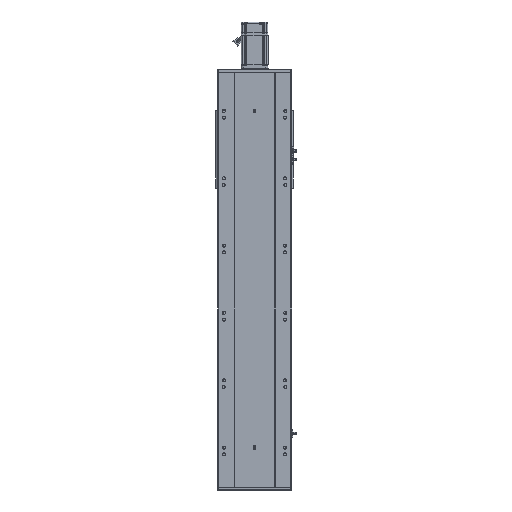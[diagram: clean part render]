
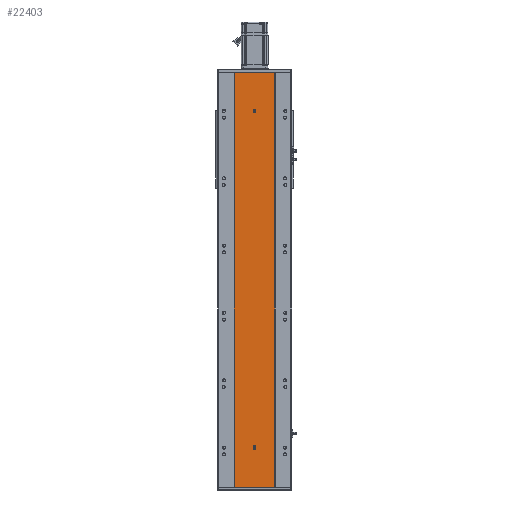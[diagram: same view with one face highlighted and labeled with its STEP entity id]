
A CAD part, front view. The second image highlights one B-rep face of the part: STEP entity #22403.
In plain terms, the highlighted planar face has unit normal (0, -1, 0).
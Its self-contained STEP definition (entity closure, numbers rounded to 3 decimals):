
#857 = CARTESIAN_POINT ( 'NONE',  ( 0., 0., 116.5 ) ) ;
#1400 = VECTOR ( 'NONE', #25266, 1000. ) ;
#2081 = VERTEX_POINT ( 'NONE', #4180 ) ;
#2931 = DIRECTION ( 'NONE',  ( 0., 0., 1. ) ) ;
#3220 = ORIENTED_EDGE ( 'NONE', *, *, #37262, .T. ) ;
#3394 = EDGE_LOOP ( 'NONE', ( #3220, #40377, #12947, #42355 ) ) ;
#3590 = DIRECTION ( 'NONE',  ( 0., 0., -1. ) ) ;
#4180 = CARTESIAN_POINT ( 'NONE',  ( 60., 0., 1232. ) ) ;
#4543 = DIRECTION ( 'NONE',  ( 0., -1., 0. ) ) ;
#5794 = ORIENTED_EDGE ( 'NONE', *, *, #21229, .F. ) ;
#7952 = CIRCLE ( 'NONE', #26396, 4. ) ;
#8780 = DIRECTION ( 'NONE',  ( 0., 0., -1. ) ) ;
#10347 = FACE_BOUND ( 'NONE', #58125, .T. ) ;
#10615 = VERTEX_POINT ( 'NONE', #18989 ) ;
#11173 = DIRECTION ( 'NONE',  ( 1., 0., 0. ) ) ;
#11961 = CIRCLE ( 'NONE', #19389, 4. ) ;
#12264 = DIRECTION ( 'NONE',  ( 0., 0., -1. ) ) ;
#12444 = DIRECTION ( 'NONE',  ( 0., 0., -1. ) ) ;
#12947 = ORIENTED_EDGE ( 'NONE', *, *, #24812, .F. ) ;
#15628 = LINE ( 'NONE', #72083, #47951 ) ;
#16171 = VERTEX_POINT ( 'NONE', #68667 ) ;
#16176 = EDGE_CURVE ( 'NONE', #2081, #44674, #66807, .T. ) ;
#16685 = CARTESIAN_POINT ( 'NONE',  ( -60., 0., 1232. ) ) ;
#17201 = DIRECTION ( 'NONE',  ( 0., 0., -1. ) ) ;
#17557 = ORIENTED_EDGE ( 'NONE', *, *, #68656, .F. ) ;
#17597 = DIRECTION ( 'NONE',  ( 0., -1., 0. ) ) ;
#17895 = AXIS2_PLACEMENT_3D ( 'NONE', #51046, #17597, #12264 ) ;
#18475 = CARTESIAN_POINT ( 'NONE',  ( 60., 0., 1232. ) ) ;
#18879 = CARTESIAN_POINT ( 'NONE',  ( 0., 0., 1122. ) ) ;
#18989 = CARTESIAN_POINT ( 'NONE',  ( 4., 0., 119.5 ) ) ;
#19389 = AXIS2_PLACEMENT_3D ( 'NONE', #857, #50971, #67482 ) ;
#21229 = EDGE_CURVE ( 'NONE', #22408, #69113, #57464, .T. ) ;
#21248 = ORIENTED_EDGE ( 'NONE', *, *, #69157, .F. ) ;
#21860 = AXIS2_PLACEMENT_3D ( 'NONE', #67489, #45861, #12444 ) ;
#22403 = ADVANCED_FACE ( 'NONE', ( #10347, #38241, #53985 ), #36245, .F. ) ;
#22408 = VERTEX_POINT ( 'NONE', #46726 ) ;
#23086 = ORIENTED_EDGE ( 'NONE', *, *, #71561, .F. ) ;
#23473 = ORIENTED_EDGE ( 'NONE', *, *, #65007, .F. ) ;
#23719 = LINE ( 'NONE', #16685, #53386 ) ;
#24635 = CARTESIAN_POINT ( 'NONE',  ( -60., 0., 0. ) ) ;
#24812 = EDGE_CURVE ( 'NONE', #58137, #2081, #15628, .T. ) ;
#25252 = CARTESIAN_POINT ( 'NONE',  ( 60., 0., 0. ) ) ;
#25266 = DIRECTION ( 'NONE',  ( 0., 0., 1. ) ) ;
#26231 = VERTEX_POINT ( 'NONE', #47867 ) ;
#26396 = AXIS2_PLACEMENT_3D ( 'NONE', #39386, #45036, #17201 ) ;
#27647 = VERTEX_POINT ( 'NONE', #47535 ) ;
#30744 = VECTOR ( 'NONE', #8780, 1000. ) ;
#32722 = CARTESIAN_POINT ( 'NONE',  ( -4., 0., 116.5 ) ) ;
#33474 = EDGE_CURVE ( 'NONE', #26231, #27647, #11961, .T. ) ;
#34691 = ORIENTED_EDGE ( 'NONE', *, *, #35582, .F. ) ;
#35582 = EDGE_CURVE ( 'NONE', #69113, #22408, #51840, .T. ) ;
#36081 = DIRECTION ( 'NONE',  ( 1., 0., 0. ) ) ;
#36245 = PLANE ( 'NONE',  #67399 ) ;
#36338 = VERTEX_POINT ( 'NONE', #58369 ) ;
#36467 = EDGE_CURVE ( 'NONE', #58137, #16171, #23719, .T. ) ;
#37262 = EDGE_CURVE ( 'NONE', #16171, #44674, #54151, .T. ) ;
#38241 = FACE_BOUND ( 'NONE', #71689, .T. ) ;
#38935 = VECTOR ( 'NONE', #58441, 1000. ) ;
#39386 = CARTESIAN_POINT ( 'NONE',  ( 0., 0., 116.5 ) ) ;
#40377 = ORIENTED_EDGE ( 'NONE', *, *, #16176, .F. ) ;
#41393 = AXIS2_PLACEMENT_3D ( 'NONE', #65621, #4543, #3590 ) ;
#42070 = CARTESIAN_POINT ( 'NONE',  ( -60., 0., 1232. ) ) ;
#42355 = ORIENTED_EDGE ( 'NONE', *, *, #36467, .T. ) ;
#44674 = VERTEX_POINT ( 'NONE', #25252 ) ;
#45036 = DIRECTION ( 'NONE',  ( 0., -1., 0. ) ) ;
#45861 = DIRECTION ( 'NONE',  ( 0., -1., 0. ) ) ;
#46726 = CARTESIAN_POINT ( 'NONE',  ( 0., 0., 1114. ) ) ;
#47535 = CARTESIAN_POINT ( 'NONE',  ( 4., 0., 116.5 ) ) ;
#47776 = CARTESIAN_POINT ( 'NONE',  ( -4., 0., 116.5 ) ) ;
#47867 = CARTESIAN_POINT ( 'NONE',  ( 0., 0., 112.5 ) ) ;
#47951 = VECTOR ( 'NONE', #11173, 1000. ) ;
#48925 = CARTESIAN_POINT ( 'NONE',  ( -60., 0., 1232. ) ) ;
#50256 = CIRCLE ( 'NONE', #41393, 4. ) ;
#50971 = DIRECTION ( 'NONE',  ( 0., -1., 0. ) ) ;
#51046 = CARTESIAN_POINT ( 'NONE',  ( 0., 0., 1118. ) ) ;
#51840 = CIRCLE ( 'NONE', #21860, 4. ) ;
#52384 = VERTEX_POINT ( 'NONE', #32722 ) ;
#52551 = LINE ( 'NONE', #47776, #30744 ) ;
#53386 = VECTOR ( 'NONE', #66875, 1000. ) ;
#53985 = FACE_OUTER_BOUND ( 'NONE', #3394, .T. ) ;
#54151 = LINE ( 'NONE', #24635, #55897 ) ;
#55897 = VECTOR ( 'NONE', #36081, 1000. ) ;
#57464 = CIRCLE ( 'NONE', #17895, 4. ) ;
#58125 = EDGE_LOOP ( 'NONE', ( #5794, #34691 ) ) ;
#58137 = VERTEX_POINT ( 'NONE', #48925 ) ;
#58369 = CARTESIAN_POINT ( 'NONE',  ( -4., 0., 119.5 ) ) ;
#58441 = DIRECTION ( 'NONE',  ( 0., 0., -1. ) ) ;
#58863 = DIRECTION ( 'NONE',  ( 0., 1., 0. ) ) ;
#64444 = CARTESIAN_POINT ( 'NONE',  ( 4., 0., 116.5 ) ) ;
#64818 = ORIENTED_EDGE ( 'NONE', *, *, #33474, .F. ) ;
#65007 = EDGE_CURVE ( 'NONE', #10615, #36338, #50256, .T. ) ;
#65621 = CARTESIAN_POINT ( 'NONE',  ( 0., 0., 119.5 ) ) ;
#66807 = LINE ( 'NONE', #18475, #38935 ) ;
#66875 = DIRECTION ( 'NONE',  ( 0., 0., -1. ) ) ;
#67399 = AXIS2_PLACEMENT_3D ( 'NONE', #42070, #58863, #2931 ) ;
#67482 = DIRECTION ( 'NONE',  ( 0., 0., -1. ) ) ;
#67489 = CARTESIAN_POINT ( 'NONE',  ( 0., 0., 1118. ) ) ;
#68656 = EDGE_CURVE ( 'NONE', #36338, #52384, #52551, .T. ) ;
#68667 = CARTESIAN_POINT ( 'NONE',  ( -60., 0., 0. ) ) ;
#69113 = VERTEX_POINT ( 'NONE', #18879 ) ;
#69157 = EDGE_CURVE ( 'NONE', #27647, #10615, #70989, .T. ) ;
#70989 = LINE ( 'NONE', #64444, #1400 ) ;
#71561 = EDGE_CURVE ( 'NONE', #52384, #26231, #7952, .T. ) ;
#71689 = EDGE_LOOP ( 'NONE', ( #21248, #64818, #23086, #17557, #23473 ) ) ;
#72083 = CARTESIAN_POINT ( 'NONE',  ( -60., 0., 1232. ) ) ;
